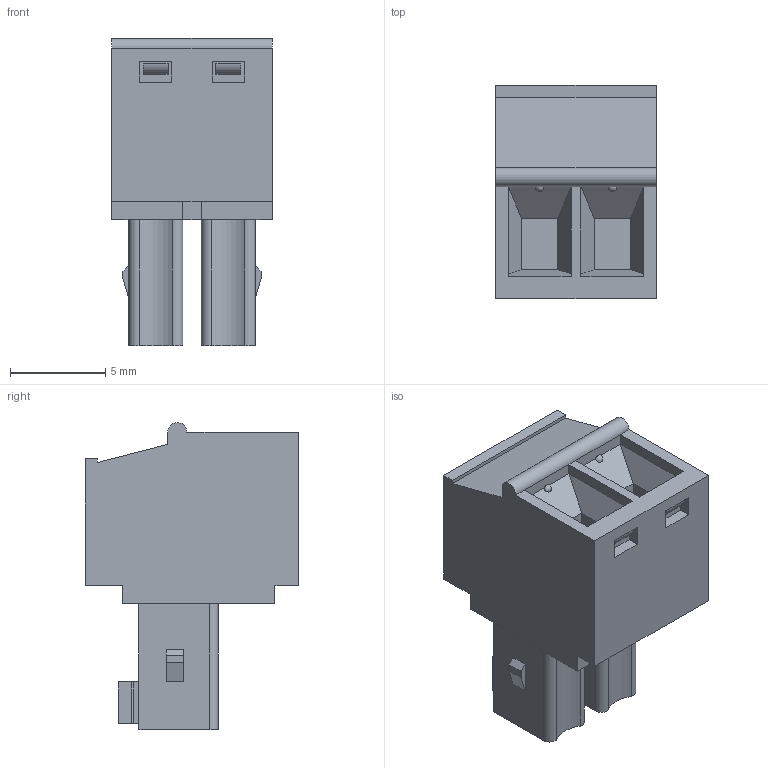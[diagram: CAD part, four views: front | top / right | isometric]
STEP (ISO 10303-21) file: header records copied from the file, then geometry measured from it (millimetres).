
FILE_DESCRIPTION(('FreeCAD Model'),'2;1');
FILE_NAME('Open CASCADE Shape Model','2023-05-24T14:38:44',('Author'),( ''),'Open CASCADE STEP processor 7.6','FreeCAD','Unknown');
FILE_SCHEMA(('AUTOMOTIVE_DESIGN { 1 0 10303 214 1 1 1 1 }'));
Length unit declared in the file: millimetre
Products named in the file (1): BR7F2-02
Bounding box: 8.41 x 11.2 x 16.1 mm (x, y, z)
Volume: 838.9 mm3; surface area: 910.5 mm2
Topology: 1 solids, 1 shells, 199 faces, 485 edges, 304 vertices
Faces by surface type: plane 126, cylinder 41, cone 20, torus 8, sphere 4
Entity records: 12943 total; most frequent: CARTESIAN_POINT 3075, DIRECTION 1880, LINE 1169, VECTOR 1169, ORIENTED_EDGE 962, PCURVE 962, DEFINITIONAL_REPRESENTATION 962, EDGE_CURVE 481
